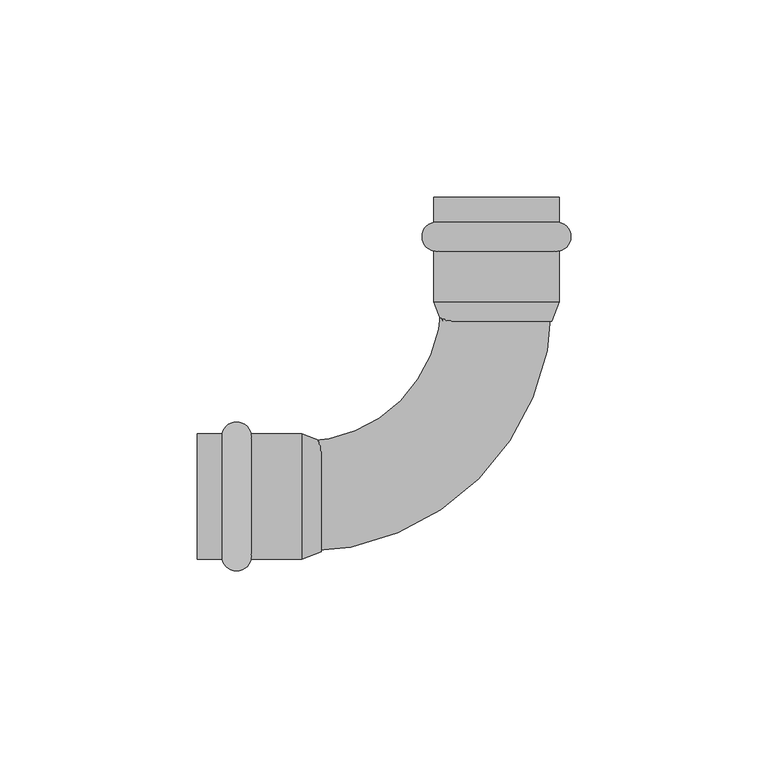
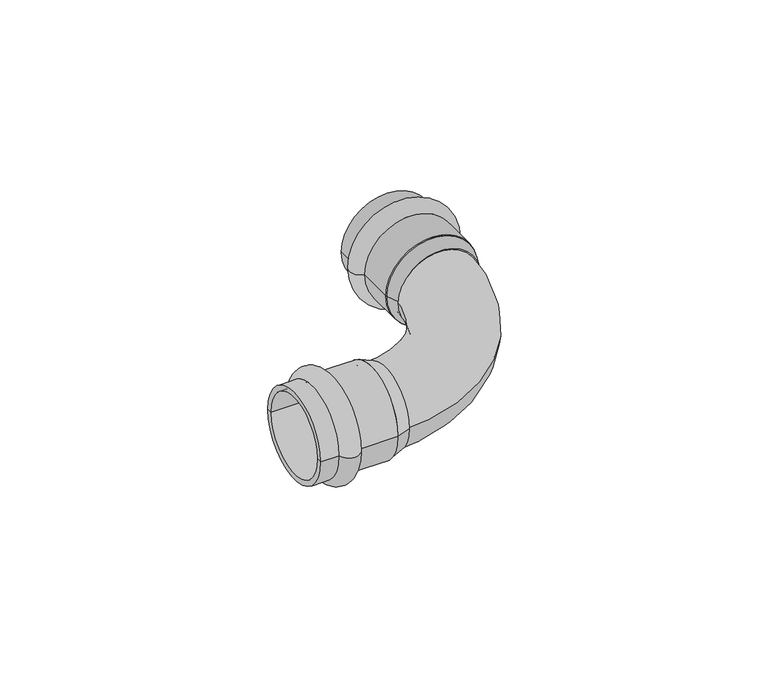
"""IFC4 building model written with IfcOpenShell, lengths in millimetres: pipe fitting geometry, VALTEC_VTi.951.I_Угольник 90° (раструб-раструб) нержавеющая сталь : VTi.951.I."""

from ifc_helpers import new_model, si_unit, point, frame, origin, place, context, project, spatial, polyline, circle_curve, ellipse_curve, trimmed, source, transform, mapped, element, save
from ifc_brep_helpers import plane_surface, cylinder_surface, revolved_surface, advanced_brep


def pipe_fitting_809ff457(model_context):
    return source(origin(), model_context, "Body", "AdvancedBrep", [
        advanced_brep(
        [(-69.6242346, -15.9, 0.0), (-69.6242346, 15.9, 0.0), (-62.2757654, 15.9, 0.0), (-62.2757654, -15.9, 0.0), (-76.0, -15.9, 0.0), (-76.0, 15.9, 0.0), (-76.0, -14.0, 0.0), (-76.0, 14.0, 0.0), (-49.4, -14.0, 0.0), (-49.4, 14.0, 0.0), (-49.4, -15.9, 0.0), (-49.4, 15.9, 0.0)],
        [
            (0, 1, circle_curve(frame((-69.6242346, 0.0, 0.0), z_axis=(1.0, 0.0, 0.0), x_axis=(0.0, 1.0, 0.0)), 15.9)),
            (1, 2, circle_curve(frame((-65.95, 15.15, 0.0), z_axis=(0.0, 0.0, -1.0), x_axis=(1.0, 0.0, 0.0)), 3.75)),
            (2, 3, circle_curve(frame((-62.2757654, 0.0, 0.0), z_axis=(-1.0, 0.0, 0.0), x_axis=(0.0, 1.0, 0.0)), 15.9)),
            (3, 0, circle_curve(frame((-65.95, -15.15, 0.0), z_axis=(0.0, 0.0, -1.0), x_axis=(1.0, 0.0, 0.0)), 3.75)),
            (1, 0, circle_curve(frame((-69.6242346, 0.0, 0.0), z_axis=(1.0, 0.0, 0.0), x_axis=(0.0, 1.0, 0.0)), 15.9)),
            (3, 2, circle_curve(frame((-62.2757654, 0.0, 0.0), z_axis=(-1.0, 0.0, 0.0), x_axis=(0.0, 1.0, 0.0)), 15.9)),
            (4, 5, circle_curve(frame((-76.0, 0.0, 0.0), z_axis=(1.0, 0.0, 0.0), x_axis=(0.0, 1.0, 0.0)), 15.9)),
            (5, 1),
            (0, 4),
            (5, 4, circle_curve(frame((-76.0, 0.0, 0.0), z_axis=(1.0, 0.0, 0.0), x_axis=(0.0, 1.0, 0.0)), 15.9)),
            (6, 7, circle_curve(frame((-76.0, 0.0, 0.0), z_axis=(1.0, 0.0, 0.0), x_axis=(0.0, 1.0, 0.0)), 14.0)),
            (7, 5),
            (4, 6),
            (7, 6, circle_curve(frame((-76.0, 0.0, 0.0), z_axis=(1.0, 0.0, 0.0), x_axis=(0.0, 1.0, 0.0)), 14.0)),
            (8, 9, circle_curve(frame((-49.4, 0.0, 0.0), z_axis=(1.0, 0.0, 0.0), x_axis=(0.0, 1.0, 0.0)), 14.0)),
            (9, 7),
            (6, 8),
            (9, 8, circle_curve(frame((-49.4, 0.0, 0.0), z_axis=(1.0, 0.0, 0.0), x_axis=(0.0, 1.0, 0.0)), 14.0)),
            (10, 11, circle_curve(frame((-49.4, 0.0, 0.0), z_axis=(1.0, 0.0, 0.0), x_axis=(0.0, 1.0, 0.0)), 15.9)),
            (11, 9),
            (8, 10),
            (11, 10, circle_curve(frame((-49.4, 0.0, 0.0), z_axis=(1.0, 0.0, 0.0), x_axis=(0.0, 1.0, 0.0)), 15.9)),
            (2, 11),
            (10, 3),
        ],
        [
            revolved_surface(trimmed(ellipse_curve(frame((-65.95, 15.15, 0.0), z_axis=(0.0, 0.0, 1.0), x_axis=(1.0, 0.0, 0.0)), 3.75, 3.75), [point((-62.2757654, 15.9, 0.0))], [point((-69.6242346, 15.9, 0.0))], True, "CARTESIAN"), (-79.5364426, 0.0, 0.0), (-1.0, 0.0, 0.0)),
            cylinder_surface(frame((-79.5364426, 0.0, 0.0), z_axis=(-1.0, 0.0, 0.0), x_axis=(0.0, 1.0, 0.0)), 15.9),
            plane_surface(frame((-76.0, 0.0, 0.0), z_axis=(-1.0, 0.0, 0.0), x_axis=(0.0, 1.0, 0.0))),
            revolved_surface(polyline([(-76.0, 14.0, 0.0), (-49.4, 14.0, 0.0)]), (-79.5364426, 0.0, 0.0), (-1.0, 0.0, 0.0)),
            plane_surface(frame((-49.4, 0.0, 0.0), z_axis=(1.0, 0.0, 0.0), x_axis=(0.0, 1.0, 0.0))),
        ],
        [
            (0, [[1, 2, 3, 4]]),
            (0, [[5, -4, 6, -2]]),
            (1, [[7, 8, -1, 9]]),
            (1, [[10, -9, -5, -8]]),
            (2, [[11, 12, -7, 13]]),
            (2, [[14, -13, -10, -12]]),
            (3, [[15, 16, -11, 17]]),
            (3, [[18, -17, -14, -16]]),
            (4, [[19, 20, -15, 21]]),
            (4, [[22, -21, -18, -20]]),
            (1, [[-3, 23, -19, 24]]),
            (1, [[-6, -24, -22, -23]]),
        ],
    ),
        advanced_brep(
        [(-15.9, 69.6242346, 0.0), (15.9, 69.6242346, 0.0), (15.9, 62.2757654, 0.0), (-15.9, 62.2757654, 0.0), (-15.9, 76.0, 0.0), (15.9, 76.0, 0.0), (-14.0, 76.0, 0.0), (14.0, 76.0, 0.0), (-14.0, 49.4, 0.0), (14.0, 49.4, 0.0), (-15.9, 49.4, 0.0), (15.9, 49.4, 0.0)],
        [
            (0, 1, circle_curve(frame((0.0, 69.6242346, 0.0), z_axis=(0.0, -1.0, 0.0), x_axis=(1.0, 0.0, 0.0)), 15.9)),
            (1, 2, circle_curve(frame((15.15, 65.95, 0.0), z_axis=(0.0, 0.0, -1.0), x_axis=(0.0, -1.0, 0.0)), 3.75)),
            (2, 3, circle_curve(frame((0.0, 62.2757654, 0.0), z_axis=(0.0, 1.0, 0.0), x_axis=(1.0, 0.0, 0.0)), 15.9)),
            (3, 0, circle_curve(frame((-15.15, 65.95, 0.0), z_axis=(0.0, 0.0, -1.0), x_axis=(0.0, -1.0, 0.0)), 3.75)),
            (1, 0, circle_curve(frame((0.0, 69.6242346, 0.0), z_axis=(0.0, -1.0, 0.0), x_axis=(1.0, 0.0, 0.0)), 15.9)),
            (3, 2, circle_curve(frame((0.0, 62.2757654, 0.0), z_axis=(0.0, 1.0, 0.0), x_axis=(1.0, 0.0, 0.0)), 15.9)),
            (4, 5, circle_curve(frame((0.0, 76.0, 0.0), z_axis=(0.0, -1.0, 0.0), x_axis=(1.0, 0.0, 0.0)), 15.9)),
            (5, 1),
            (0, 4),
            (5, 4, circle_curve(frame((0.0, 76.0, 0.0), z_axis=(0.0, -1.0, 0.0), x_axis=(1.0, 0.0, 0.0)), 15.9)),
            (6, 7, circle_curve(frame((0.0, 76.0, 0.0), z_axis=(0.0, -1.0, 0.0), x_axis=(1.0, 0.0, 0.0)), 14.0)),
            (7, 5),
            (4, 6),
            (7, 6, circle_curve(frame((0.0, 76.0, 0.0), z_axis=(0.0, -1.0, 0.0), x_axis=(1.0, 0.0, 0.0)), 14.0)),
            (8, 9, circle_curve(frame((0.0, 49.4, 0.0), z_axis=(0.0, -1.0, 0.0), x_axis=(1.0, 0.0, 0.0)), 14.0)),
            (9, 7),
            (6, 8),
            (9, 8, circle_curve(frame((0.0, 49.4, 0.0), z_axis=(0.0, -1.0, 0.0), x_axis=(1.0, 0.0, 0.0)), 14.0)),
            (10, 11, circle_curve(frame((0.0, 49.4, 0.0), z_axis=(0.0, -1.0, 0.0), x_axis=(1.0, 0.0, 0.0)), 15.9)),
            (11, 9),
            (8, 10),
            (11, 10, circle_curve(frame((0.0, 49.4, 0.0), z_axis=(0.0, -1.0, 0.0), x_axis=(1.0, 0.0, 0.0)), 15.9)),
            (2, 11),
            (10, 3),
        ],
        [
            revolved_surface(trimmed(ellipse_curve(frame((15.15, 65.95, 0.0), z_axis=(0.0, 0.0, 1.0), x_axis=(0.0, -1.0, 0.0)), 3.75, 3.75), [point((15.9, 62.2757654, 0.0))], [point((15.9, 69.6242346, 0.0))], True, "CARTESIAN"), (0.0, 79.5364426, 0.0), (0.0, 1.0, 0.0)),
            cylinder_surface(frame((0.0, 79.5364426, 0.0), z_axis=(0.0, 1.0, 0.0), x_axis=(1.0, 0.0, 0.0)), 15.9),
            plane_surface(frame((0.0, 76.0, 0.0), z_axis=(0.0, 1.0, 0.0), x_axis=(1.0, 0.0, 0.0))),
            revolved_surface(polyline([(14.0, 76.0, 0.0), (14.0, 49.4, 0.0)]), (0.0, 79.5364426, 0.0), (0.0, 1.0, 0.0)),
            plane_surface(frame((0.0, 49.4, 0.0), z_axis=(0.0, -1.0, 0.0), x_axis=(1.0, 0.0, 0.0))),
        ],
        [
            (0, [[1, 2, 3, 4]]),
            (0, [[5, -4, 6, -2]]),
            (1, [[7, 8, -1, 9]]),
            (1, [[10, -9, -5, -8]]),
            (2, [[11, 12, -7, 13]]),
            (2, [[14, -13, -10, -12]]),
            (3, [[15, 16, -11, 17]]),
            (3, [[18, -17, -14, -16]]),
            (4, [[19, 20, -15, 21]]),
            (4, [[22, -21, -18, -20]]),
            (1, [[-3, 23, -19, 24]]),
            (1, [[-6, -24, -22, -23]]),
        ],
    ),
        advanced_brep(
        [(-49.4, -15.9, 0.0), (-49.4, 15.9, 0.0), (-44.46, -14.0, 0.0), (-44.46, 14.0, 0.0)],
        [
            (0, 1, circle_curve(frame((-49.4, 0.0, 0.0), z_axis=(-1.0, 0.0, 0.0), x_axis=(0.0, -1.0, 0.0)), 15.9)),
            (1, 0, circle_curve(frame((-49.4, 0.0, 0.0), z_axis=(-1.0, 0.0, 0.0), x_axis=(0.0, 1.0, 0.0)), 15.9)),
            (2, 3, circle_curve(frame((-44.46, 0.0, 0.0), z_axis=(1.0, 0.0, 0.0), x_axis=(0.0, 1.0, 0.0)), 14.0)),
            (3, 2, circle_curve(frame((-44.46, 0.0, 0.0), z_axis=(1.0, 0.0, 0.0), x_axis=(0.0, -1.0, 0.0)), 14.0)),
            (2, 0),
            (1, 3),
        ],
        [
            plane_surface(frame((-49.4, 0.0, 0.0), z_axis=(-1.0, 0.0, 0.0), x_axis=(0.0, 0.0, -1.0))),
            plane_surface(frame((-44.46, 0.0, 0.0), z_axis=(1.0, 0.0, 0.0), x_axis=(0.0, 0.0, -1.0))),
            revolved_surface(polyline([(-44.46, -14.0, 0.0), (-49.4, -15.9, 0.0)]), (-8.06, 0.0, 0.0), (-1.0, 0.0, 0.0)),
            revolved_surface(polyline([(-44.46, 14.0, 0.0), (-49.4, 15.9, 0.0)]), (-8.06, 0.0, 0.0), (-1.0, 0.0, 0.0)),
        ],
        [
            (0, [[1, 2]]),
            (1, [[3, 4]]),
            (2, [[-3, 5, -2, 6]]),
            (3, [[-4, -6, -1, -5]]),
        ],
    ),
        advanced_brep(
        [(-15.9, 49.4, 0.0), (15.9, 49.4, 0.0), (-14.0, 44.46, 0.0), (14.0, 44.46, 0.0)],
        [
            (0, 1, circle_curve(frame((0.0, 49.4, 0.0), z_axis=(0.0, 1.0, 0.0), x_axis=(-1.0, 0.0, 0.0)), 15.9)),
            (1, 0, circle_curve(frame((0.0, 49.4, 0.0), z_axis=(0.0, 1.0, 0.0), x_axis=(1.0, 0.0, 0.0)), 15.9)),
            (2, 3, circle_curve(frame((0.0, 44.46, 0.0), z_axis=(0.0, -1.0, 0.0), x_axis=(1.0, 0.0, 0.0)), 14.0)),
            (3, 2, circle_curve(frame((0.0, 44.46, 0.0), z_axis=(0.0, -1.0, 0.0), x_axis=(-1.0, 0.0, 0.0)), 14.0)),
            (2, 0),
            (1, 3),
        ],
        [
            plane_surface(frame((0.0, 49.4, 0.0), z_axis=(0.0, 1.0, 0.0), x_axis=(0.0, 0.0, -1.0))),
            plane_surface(frame((0.0, 44.46, 0.0), z_axis=(0.0, -1.0, 0.0), x_axis=(0.0, 0.0, -1.0))),
            revolved_surface(polyline([(-14.0, 44.46, 0.0), (-15.9, 49.4, 0.0)]), (0.0, 8.06, 0.0), (0.0, 1.0, 0.0)),
            revolved_surface(polyline([(14.0, 44.46, 0.0), (15.9, 49.4, 0.0)]), (0.0, 8.06, 0.0), (0.0, 1.0, 0.0)),
        ],
        [
            (0, [[1, 2]]),
            (1, [[3, 4]]),
            (2, [[-3, 5, -2, 6]]),
            (3, [[-4, -6, -1, -5]]),
        ],
    ),
        advanced_brep(
        [(-49.4, -14.0551605, 0.0), (-49.4, 13.9448395, 0.0), (14.0551605, 49.4, 0.0), (-13.9448395, 49.4, 0.0)],
        [
            (0, 1, circle_curve(frame((-49.4, -0.0551605, 0.0), z_axis=(-1.0, 0.0, 0.0), x_axis=(0.0, 1.0, 0.0)), 14.0)),
            (1, 0, circle_curve(frame((-49.4, -0.0551605, 0.0), z_axis=(-1.0, 0.0, 0.0), x_axis=(0.0, 1.0, 0.0)), 14.0)),
            (2, 3, circle_curve(frame((0.0551605, 49.4, 0.0), z_axis=(0.0, 1.0, 0.0), x_axis=(-1.0, 0.0, 0.0)), 14.0)),
            (3, 2, circle_curve(frame((0.0551605, 49.4, 0.0), z_axis=(0.0, 1.0, 0.0), x_axis=(-1.0, 0.0, 0.0)), 14.0)),
            (3, 1, circle_curve(frame((-49.4, 49.4, 0.0), z_axis=(0.0, 0.0, -1.0), x_axis=(0.0, -1.0, 0.0)), 35.4551605)),
            (0, 2, circle_curve(frame((-49.4, 49.4, 0.0), z_axis=(0.0, 0.0, 1.0), x_axis=(0.0, -1.0, 0.0)), 63.4551605)),
        ],
        [
            plane_surface(frame((-49.4, 0.0, 0.0), z_axis=(-1.0, 0.0, 0.0), x_axis=(0.0, 0.0, 1.0))),
            plane_surface(frame((0.0, 49.4, 0.0), z_axis=(0.0, 1.0, 0.0), x_axis=(0.0, 0.0, 1.0))),
            revolved_surface(trimmed(ellipse_curve(frame((-49.4, -0.0551605, 0.0), z_axis=(-1.0, 0.0, 0.0), x_axis=(0.0, 1.0, 0.0)), 14.0, 14.0), [point((-49.4, -14.0551605, 0.0))], [point((-49.4, 13.9448395, 0.0))], True, "CARTESIAN"), (-49.4, 49.4, 0.0), (0.0, 0.0, 1.0)),
            revolved_surface(trimmed(ellipse_curve(frame((-49.4, -0.0551605, 0.0), z_axis=(-1.0, 0.0, 0.0), x_axis=(0.0, 1.0, 0.0)), 14.0, 14.0), [point((-49.4, 13.9448395, 0.0))], [point((-49.4, -14.0551605, 0.0))], True, "CARTESIAN"), (-49.4, 49.4, 0.0), (0.0, 0.0, 1.0)),
        ],
        [
            (0, [[1, 2]]),
            (1, [[3, 4]]),
            (2, [[5, -1, 6, -4]]),
            (3, [[-6, -2, -5, -3]]),
        ],
    ),
    ])


if __name__ == "__main__":
    model = new_model("IFC4")
    model_context = context("Model", 3, world=origin())
    ifc_project = project(units=[si_unit("LENGTHUNIT", "METRE", prefix="MILLI")], contexts=[model_context])
    site = spatial("IfcSite", under=ifc_project)
    building = spatial("IfcBuilding", under=site)
    placement = place(None, origin())
    pipe_fitting_shape = pipe_fitting_809ff457(model_context)
    element("IfcPipeFitting", 1, ObjectType="VALTEC_VTi.951.I_Угольник 90° (раструб-раструб) нержавеющая сталь : VTi.951.I", at=placement, inside=building, context=model_context, shape_type="MappedRepresentation", body=[
        mapped(pipe_fitting_shape, transform((0.0, 0.0, 0.0), x_axis=(1.0, 0.0, 0.0), y_axis=(0.0, 1.0, 0.0), z_axis=(0.0, 0.0, 1.0))),
    ])
    save(model, "model.ifc")
